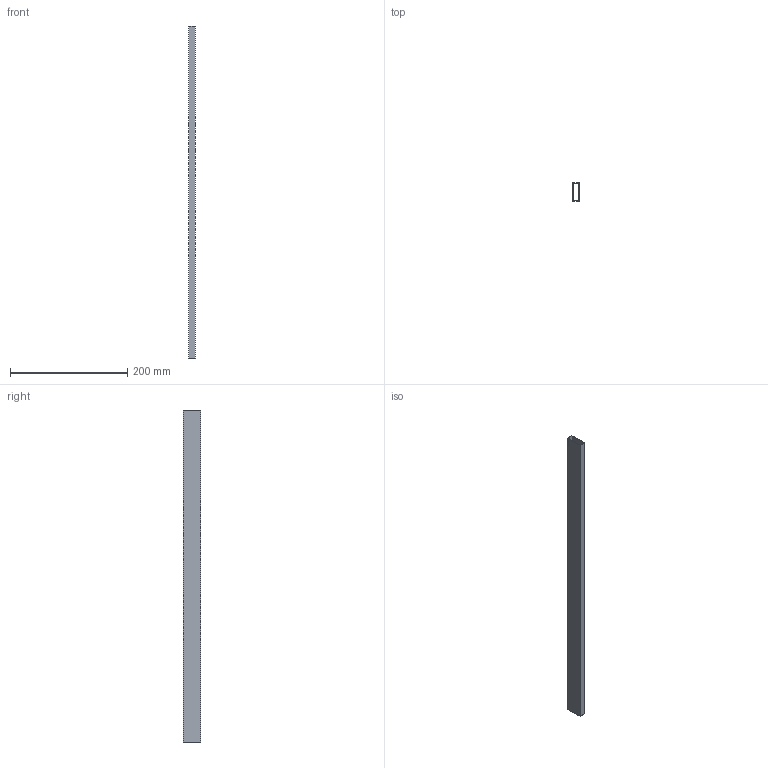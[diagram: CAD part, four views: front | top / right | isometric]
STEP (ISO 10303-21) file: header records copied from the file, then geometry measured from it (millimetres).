
FILE_DESCRIPTION (( 'STEP AP214' ), '1' );
FILE_NAME ('_DWD XP Rechteckreling NL600.step', '2010-07-14T13:27:55', ( 'grass' ), ( '' ), 'SwSTEP 2.0', 'SolidWorks 2010', '' );
FILE_SCHEMA (( 'AUTOMOTIVE_DESIGN' ));
Length unit declared in the file: millimetre
Products named in the file (1): _DWD XP Rechteckreling NL600
Bounding box: 10.5 x 30 x 567.1 mm (x, y, z)
Volume: 26744.4 mm3; surface area: 89242.4 mm2
Topology: 1 solids, 1 shells, 10 faces, 24 edges, 16 vertices
Faces by surface type: plane 10
Entity records: 326 total; most frequent: CARTESIAN_POINT 51, ORIENTED_EDGE 48, DIRECTION 46, LINE 24, VECTOR 24, EDGE_CURVE 24, VERTEX_POINT 16, EDGE_LOOP 12
